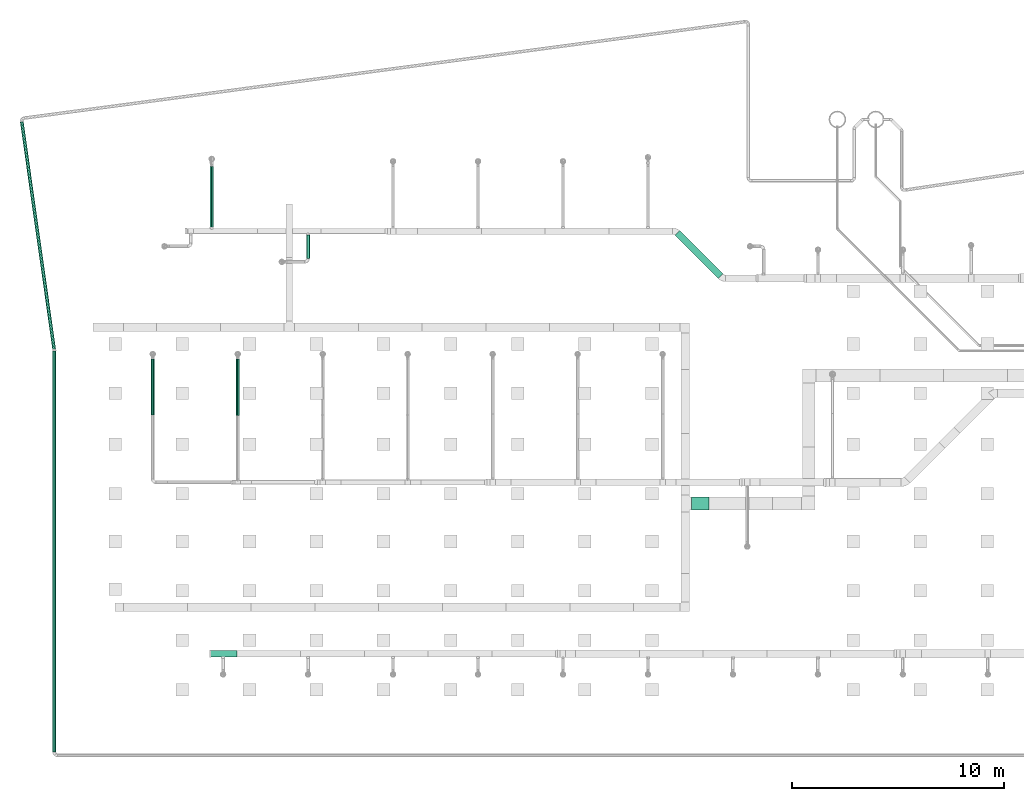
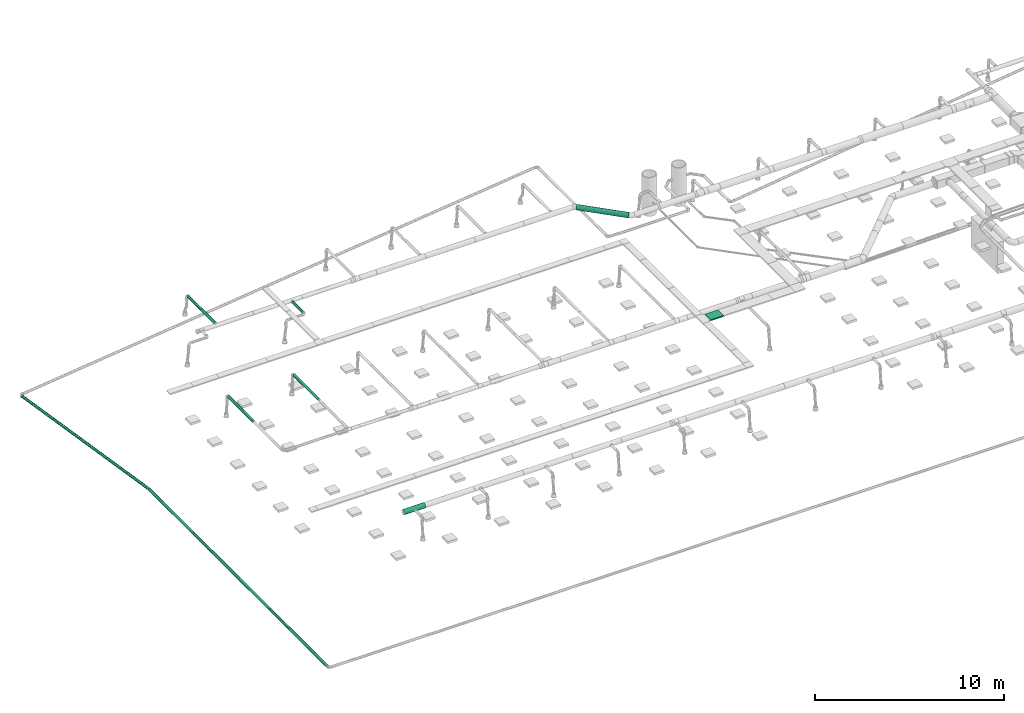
# One storey, part 200 of 374: 8 flow segments, 1 distribution element.
"""IFC2X3 building model written with IfcOpenShell, lengths in metres."""

from ifc_helpers import new_model, si_unit, direction, origin, place, context, subcontext, project, spatial, open_shell, surface_model, source, transform, mapped, element, save


model = new_model("IFC2X3")

# Units and contexts
model_context = context("Model", 3, precision=1e-05, world=origin(), true_north=direction((-0.4480736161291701, 0.8939966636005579)))
body_context = subcontext(model_context, "Body", "Model", "MODEL_VIEW")
ifc_project = project(units=[si_unit("LENGTHUNIT", "METRE"), si_unit("AREAUNIT", "SQUARE_METRE"), si_unit("VOLUMEUNIT", "CUBIC_METRE"), si_unit("PLANEANGLEUNIT", "RADIAN"), si_unit("THERMODYNAMICTEMPERATUREUNIT", "KELVIN"), si_unit("MASSUNIT", "GRAM", prefix="KILO"), si_unit("TIMEUNIT", "SECOND")], contexts=[model_context])

# Site, building, storey
site_placement = place(None, origin())
site = spatial("IfcSite", under=ifc_project, at=site_placement, Name="Site 1", CompositionType="ELEMENT")
building_placement = place(site_placement, origin())
building = spatial("IfcBuilding", under=site, at=building_placement, Name="Undefined", CompositionType="ELEMENT")
storey_placement = place(building_placement, origin())
storey = spatial("IfcBuildingStorey", under=building, at=storey_placement, Name="Rez de chauss\x8ee", CompositionType="ELEMENT", Elevation=0.0)

# Flow segments
shared_shape_1 = source(origin(), body_context, "Body", "SurfaceModel", [
    surface_model("IfcFaceBasedSurfaceModel", [(0.0, 0.020884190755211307, 0.0), (0.0, 0.0, 0.0), (18.87762597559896, 0.0, 0.0), (18.87762597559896, 0.02088419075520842, 0.0), (0.0, -0.020172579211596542, -0.005405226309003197), (18.87762597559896, -0.02017257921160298, -0.005405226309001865), (0.0, -0.03825881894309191, -0.015847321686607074), (18.87762597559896, -0.038258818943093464, -0.015847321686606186), (0.0, -0.05302617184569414, -0.0306146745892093), (18.87762597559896, -0.05302617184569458, -0.030614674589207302), (0.0, -0.06346826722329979, -0.04870091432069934), (18.87762597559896, -0.06346826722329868, -0.04870091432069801), (0.0, -0.06887349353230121, -0.06887349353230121), (18.87762597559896, -0.0688734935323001, -0.06887349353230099), (0.0, -0.06887349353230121, -0.08975768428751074), (18.87762597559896, -0.06887349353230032, -0.0897576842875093), (0.0, -0.06346826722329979, -0.10993026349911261), (18.87762597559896, -0.06346826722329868, -0.10993026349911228), (0.0, -0.05302617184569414, -0.12801650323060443), (18.87762597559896, -0.05302617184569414, -0.12801650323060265), (0.0, -0.038258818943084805, -0.14278385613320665), (18.87762597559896, -0.03825881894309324, -0.14278385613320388), (0.0, -0.020172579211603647, -0.15322595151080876), (18.87762597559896, -0.020172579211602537, -0.15322595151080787), (0.0, 7.105427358e-15, -0.15863117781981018), (18.87762597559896, 4.4408921e-16, -0.15863117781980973), (0.0, 0.020884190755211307, -0.15863117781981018), (18.87762597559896, 0.020884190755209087, -0.15863117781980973), (0.0, 0.04105676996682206, -0.15322595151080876), (18.87762597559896, 0.041056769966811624, -0.15322595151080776), (0.0, 0.05914300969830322, -0.1427838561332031), (18.87762597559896, 0.05914300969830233, -0.14278385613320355), (0.0, 0.07391036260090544, -0.12801650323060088), (18.87762597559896, 0.07391036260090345, -0.12801650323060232), (0.0, 0.0843524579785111, -0.10993026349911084), (18.87762597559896, 0.08435245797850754, -0.10993026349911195), (0.0, 0.08975768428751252, -0.08975768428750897), (18.87762597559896, 0.08975768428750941, -0.08975768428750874), (0.0, 0.08975768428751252, -0.06887349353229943), (18.87762597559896, 0.08975768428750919, -0.06887349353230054), (0.0, 0.0843524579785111, -0.048700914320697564), (18.87762597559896, 0.08435245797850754, -0.048700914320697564), (0.0, 0.07391036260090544, -0.030614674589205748), (18.87762597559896, 0.073910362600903, -0.03061467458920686), (0.0, 0.05914300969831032, -0.015847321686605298), (18.87762597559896, 0.059143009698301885, -0.015847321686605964), (0.0, 0.04105676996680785, -0.005405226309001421), (18.87762597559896, 0.041056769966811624, -0.005405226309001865)], [open_shell([[[0, 1, 2, 3]], [[1, 4, 5, 2]], [[4, 6, 7, 5]], [[6, 8, 9, 7]], [[8, 10, 11, 9]], [[10, 12, 13, 11]], [[12, 14, 15, 13]], [[14, 16, 17, 15]], [[16, 18, 19, 17]], [[18, 20, 21, 19]], [[20, 22, 23, 21]], [[22, 24, 25, 23]], [[24, 26, 27, 25]], [[26, 28, 29, 27]], [[28, 30, 31, 29]], [[30, 32, 33, 31]], [[32, 34, 35, 33]], [[34, 36, 37, 35]], [[36, 38, 39, 37]], [[38, 40, 41, 39]], [[40, 42, 43, 41]], [[42, 44, 45, 43]], [[44, 46, 47, 45]], [[46, 0, 3, 47]]])]),
])
flow_segment_1_placement = place(storey_placement, origin())
element("IfcFlowSegment", 1, at=flow_segment_1_placement, inside=storey, Name="PE-HD tuyau", ObjectType="PE-HD tuyau", context=body_context, shape_type="MappedRepresentation", body=[
    mapped(shared_shape_1, transform((-1.6736586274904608, -1.7664321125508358, -0.8708619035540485), x_axis=(0.0, 1.0, 0.0), y_axis=(0.9914448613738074, 0.0, -0.13052619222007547), z_axis=(-0.13052619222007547, 0.0, -0.9914448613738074))),
])
shared_shape_2 = source(origin(), body_context, "Body", "SurfaceModel", [
    surface_model("IfcFaceBasedSurfaceModel", [(2.758895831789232e-07, 0.020884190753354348, -1.11022302e-16), (0.0, 0.0, 0.0), (10.814239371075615, 2.22044605e-16, -2.22044605e-16), (10.814239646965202, 0.020884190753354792, -2.22044605e-16), (-2.5708817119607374e-07, -0.0201725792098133, -0.0054052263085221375), (10.814239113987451, -0.020172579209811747, -0.0054052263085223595), (-4.778547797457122e-07, -0.038258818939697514, -0.015847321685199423), (10.814238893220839, -0.03825881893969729, -0.015847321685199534), (-6.47254960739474e-07, -0.05302617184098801, -0.030614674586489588), (10.814238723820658, -0.0530261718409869, -0.0306146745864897), (-7.537443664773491e-07, -0.06346826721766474, -0.04870091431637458), (10.814238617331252, -0.06346826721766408, -0.04870091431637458), (-7.900659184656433e-07, -0.06887349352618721, -0.06887349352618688), (10.814238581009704, -0.0688734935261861, -0.0688734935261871), (-7.537443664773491e-07, -0.06887349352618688, -0.08975768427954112), (10.814238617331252, -0.06887349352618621, -0.08975768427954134), (-6.47254960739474e-07, -0.0634682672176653, -0.10993026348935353), (10.814238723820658, -0.06346826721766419, -0.10993026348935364), (-4.778547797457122e-07, -0.0530261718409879, -0.12801650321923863), (10.814238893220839, -0.05302617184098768, -0.12801650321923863), (-2.5708817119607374e-07, -0.0382588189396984, -0.14278385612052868), (10.814239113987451, -0.03825881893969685, -0.1427838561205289), (0.0, -0.020172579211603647, -0.15322595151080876), (10.814239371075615, -0.020172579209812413, -0.15322595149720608), (2.758895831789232e-07, -2.22044605e-16, -0.1586311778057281), (10.814239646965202, 2.22044605e-16, -0.15863117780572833), (5.517791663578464e-07, 0.020884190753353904, -0.1586311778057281), (10.814239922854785, 0.020884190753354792, -0.15863117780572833), (8.088673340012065e-07, 0.041056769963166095, -0.15322595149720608), (10.814240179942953, 0.041056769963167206, -0.1532259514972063), (1.0296339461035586e-06, 0.05914300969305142, -0.1427838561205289), (10.814240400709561, 0.059143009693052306, -0.14278385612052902), (1.1990341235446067e-06, 0.07391036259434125, -0.12801650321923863), (10.814240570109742, 0.07391036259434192, -0.12801650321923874), (1.3055235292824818e-06, 0.08435245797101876, -0.10993026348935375), (10.814240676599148, 0.08435245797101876, -0.10993026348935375), (1.341845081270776e-06, 0.08975768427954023, -0.08975768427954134), (10.8142407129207, 0.08975768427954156, -0.08975768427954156), (1.3055235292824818e-06, 0.0897576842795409, -0.06887349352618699), (10.814240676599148, 0.0897576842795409, -0.06887349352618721), (1.1990341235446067e-06, 0.08435245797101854, -0.04870091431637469), (10.814240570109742, 0.0843524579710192, -0.0487009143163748), (1.0296339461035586e-06, 0.0739103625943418, -0.0306146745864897), (10.814240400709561, 0.0739103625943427, -0.03061467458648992), (8.088673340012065e-07, 0.059143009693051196, -0.015847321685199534), (10.814240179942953, 0.059143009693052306, -0.015847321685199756), (5.517791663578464e-07, 0.04105676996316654, -0.0054052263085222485), (10.814239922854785, 0.04105676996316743, -0.0054052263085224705)], [open_shell([[[0, 1, 2, 3]], [[1, 4, 5, 2]], [[4, 6, 7, 5]], [[6, 8, 9, 7]], [[8, 10, 11, 9]], [[10, 12, 13, 11]], [[12, 14, 15, 13]], [[14, 16, 17, 15]], [[16, 18, 19, 17]], [[18, 20, 21, 19]], [[20, 22, 23, 21]], [[22, 24, 25, 23]], [[24, 26, 27, 25]], [[26, 28, 29, 27]], [[28, 30, 31, 29]], [[30, 32, 33, 31]], [[32, 34, 35, 33]], [[34, 36, 37, 35]], [[36, 38, 39, 37]], [[38, 40, 41, 39]], [[40, 42, 43, 41]], [[42, 44, 45, 43]], [[44, 46, 47, 45]], [[46, 0, 3, 47]]])]),
])
flow_segment_2_placement = place(storey_placement, origin())
element("IfcFlowSegment", 2, at=flow_segment_2_placement, inside=storey, Name="PE-HD tuyau", ObjectType="PE-HD tuyau", context=body_context, shape_type="MappedRepresentation", body=[
    mapped(shared_shape_2, transform((-1.6828643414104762, 17.181232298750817, -0.8708619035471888), x_axis=(-0.14087204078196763, 0.9900278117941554, 0.0), y_axis=(0.9815579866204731, 0.13966686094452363, -0.1305261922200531), z_axis=(-0.1292245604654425, -0.01838749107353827, -0.9914448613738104))),
])
shared_shape_3 = source(origin(), body_context, "Body", "SurfaceModel", [
    surface_model("IfcFaceBasedSurfaceModel", [(0.0, 0.020884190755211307, 0.0), (0.0, 0.0, 0.0), (2.6461030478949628, 0.0, 0.0), (2.6461030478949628, 0.020884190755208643, -8.8817842e-16), (0.0, -0.020172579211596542, -0.005405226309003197), (2.6461030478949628, -0.02017257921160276, -0.005405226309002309), (0.0, -0.03825881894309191, -0.015847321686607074), (2.6461030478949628, -0.038258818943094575, -0.015847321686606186), (0.0, -0.05302617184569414, -0.0306146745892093), (2.6461030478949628, -0.053026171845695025, -0.030614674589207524), (0.0, -0.06346826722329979, -0.04870091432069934), (2.6461030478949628, -0.0634682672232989, -0.04870091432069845), (0.0, -0.06887349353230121, -0.06887349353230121), (2.6461030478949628, -0.06887349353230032, -0.06887349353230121), (0.0, -0.06887349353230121, -0.08975768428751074), (2.6461030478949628, -0.06887349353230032, -0.08975768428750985), (0.0, -0.06346826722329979, -0.10993026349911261), (2.6461030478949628, -0.0634682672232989, -0.10993026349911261), (0.0, -0.05302617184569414, -0.12801650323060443), (2.6461030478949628, -0.05302617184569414, -0.12801650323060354), (0.0, -0.038258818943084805, -0.14278385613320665), (2.6461030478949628, -0.03825881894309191, -0.142783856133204), (0.0, -0.020172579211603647, -0.15322595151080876), (2.6461030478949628, -0.02017257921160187, -0.15322595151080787), (0.0, 7.105427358e-15, -0.15863117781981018), (2.6461030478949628, 1.776356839e-15, -0.1586311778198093), (0.0, 0.020884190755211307, -0.15863117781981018), (2.6461030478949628, 0.02088419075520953, -0.1586311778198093), (0.0, 0.04105676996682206, -0.15322595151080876), (2.6461030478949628, 0.04105676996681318, -0.15322595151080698), (0.0, 0.05914300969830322, -0.1427838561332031), (2.6461030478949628, 0.05914300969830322, -0.1427838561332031), (0.0, 0.07391036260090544, -0.12801650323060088), (2.6461030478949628, 0.07391036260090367, -0.12801650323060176), (0.0, 0.0843524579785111, -0.10993026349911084), (2.6461030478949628, 0.08435245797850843, -0.10993026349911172), (0.0, 0.08975768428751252, -0.08975768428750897), (2.6461030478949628, 0.08975768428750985, -0.08975768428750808), (0.0, 0.08975768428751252, -0.06887349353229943), (2.6461030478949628, 0.08975768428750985, -0.06887349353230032), (0.0, 0.0843524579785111, -0.048700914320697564), (2.6461030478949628, 0.08435245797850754, -0.048700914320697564), (0.0, 0.07391036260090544, -0.030614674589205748), (2.6461030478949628, 0.07391036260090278, -0.030614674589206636), (0.0, 0.05914300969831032, -0.015847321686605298), (2.6461030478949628, 0.05914300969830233, -0.015847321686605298), (0.0, 0.04105676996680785, -0.005405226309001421), (2.6461030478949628, 0.0410567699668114, -0.005405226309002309)], [open_shell([[[0, 1, 2, 3]], [[1, 4, 5, 2]], [[4, 6, 7, 5]], [[6, 8, 9, 7]], [[8, 10, 11, 9]], [[10, 12, 13, 11]], [[12, 14, 15, 13]], [[14, 16, 17, 15]], [[16, 18, 19, 17]], [[18, 20, 21, 19]], [[20, 22, 23, 21]], [[22, 24, 25, 23]], [[24, 26, 27, 25]], [[26, 28, 29, 27]], [[28, 30, 31, 29]], [[30, 32, 33, 31]], [[32, 34, 35, 33]], [[34, 36, 37, 35]], [[36, 38, 39, 37]], [[38, 40, 41, 39]], [[40, 42, 43, 41]], [[42, 44, 45, 43]], [[44, 46, 47, 45]], [[46, 0, 3, 47]]])]),
])
flow_segment_3_placement = place(storey_placement, origin())
element("IfcFlowSegment", 3, at=flow_segment_3_placement, inside=storey, Name="Tube", ObjectType="Tube", context=body_context, shape_type="MappedRepresentation", body=[
    mapped(shared_shape_3, transform((7.000758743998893, 14.069193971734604, 3.877274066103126), x_axis=(0.0, 1.0, 0.0), y_axis=(-0.9914448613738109, 0.0, 0.1305261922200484), z_axis=(0.1305261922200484, 0.0, 0.9914448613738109))),
])
shared_shape_4 = source(origin(), body_context, "Body", "SurfaceModel", [
    surface_model("IfcFaceBasedSurfaceModel", [(0.0, 0.020884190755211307, 0.0), (0.0, 0.0, 0.0), (2.636103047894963, 0.0, 0.0), (2.636103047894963, 0.020884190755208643, 0.0), (0.0, -0.020172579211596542, -0.005405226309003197), (2.636103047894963, -0.02017257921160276, -0.005405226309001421), (0.0, -0.03825881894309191, -0.015847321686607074), (2.636103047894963, -0.038258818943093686, -0.015847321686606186), (0.0, -0.05302617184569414, -0.0306146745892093), (2.636103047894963, -0.05302617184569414, -0.030614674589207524), (0.0, -0.06346826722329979, -0.04870091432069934), (2.636103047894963, -0.06346826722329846, -0.04870091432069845), (0.0, -0.06887349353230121, -0.06887349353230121), (2.636103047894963, -0.06887349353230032, -0.06887349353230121), (0.0, -0.06887349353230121, -0.08975768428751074), (2.636103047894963, -0.06887349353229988, -0.08975768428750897), (0.0, -0.06346826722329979, -0.10993026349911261), (2.636103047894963, -0.06346826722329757, -0.10993026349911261), (0.0, -0.05302617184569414, -0.12801650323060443), (2.636103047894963, -0.05302617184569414, -0.12801650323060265), (0.0, -0.038258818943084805, -0.14278385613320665), (2.636103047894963, -0.038258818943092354, -0.1427838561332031), (0.0, -0.020172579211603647, -0.15322595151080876), (2.636103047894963, -0.02017257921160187, -0.15322595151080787), (0.0, 7.105427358e-15, -0.15863117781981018), (2.636103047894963, 1.33226763e-15, -0.1586311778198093), (0.0, 0.020884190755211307, -0.15863117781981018), (2.636103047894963, 0.02088419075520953, -0.1586311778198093), (0.0, 0.04105676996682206, -0.15322595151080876), (2.636103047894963, 0.041056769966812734, -0.15322595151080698), (0.0, 0.05914300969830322, -0.1427838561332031), (2.636103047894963, 0.05914300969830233, -0.1427838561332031), (0.0, 0.07391036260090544, -0.12801650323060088), (2.636103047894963, 0.07391036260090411, -0.12801650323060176), (0.0, 0.0843524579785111, -0.10993026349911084), (2.636103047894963, 0.08435245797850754, -0.10993026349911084), (0.0, 0.08975768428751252, -0.08975768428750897), (2.636103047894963, 0.08975768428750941, -0.08975768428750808), (0.0, 0.08975768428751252, -0.06887349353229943), (2.636103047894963, 0.08975768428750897, -0.06887349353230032), (0.0, 0.0843524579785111, -0.048700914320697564), (2.636103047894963, 0.08435245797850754, -0.048700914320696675), (0.0, 0.07391036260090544, -0.030614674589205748), (2.636103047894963, 0.07391036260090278, -0.030614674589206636), (0.0, 0.05914300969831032, -0.015847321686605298), (2.636103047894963, 0.05914300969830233, -0.015847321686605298), (0.0, 0.04105676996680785, -0.005405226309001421), (2.636103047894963, 0.04105676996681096, -0.005405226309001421)], [open_shell([[[0, 1, 2, 3]], [[1, 4, 5, 2]], [[4, 6, 7, 5]], [[6, 8, 9, 7]], [[8, 10, 11, 9]], [[10, 12, 13, 11]], [[12, 14, 15, 13]], [[14, 16, 17, 15]], [[16, 18, 19, 17]], [[18, 20, 21, 19]], [[20, 22, 23, 21]], [[22, 24, 25, 23]], [[24, 26, 27, 25]], [[26, 28, 29, 27]], [[28, 30, 31, 29]], [[30, 32, 33, 31]], [[32, 34, 35, 33]], [[34, 36, 37, 35]], [[36, 38, 39, 37]], [[38, 40, 41, 39]], [[40, 42, 43, 41]], [[42, 44, 45, 43]], [[44, 46, 47, 45]], [[46, 0, 3, 47]]])]),
])
flow_segment_4_placement = place(storey_placement, origin())
element("IfcFlowSegment", 4, at=flow_segment_4_placement, inside=storey, Name="Tube", ObjectType="Tube", context=body_context, shape_type="MappedRepresentation", body=[
    mapped(shared_shape_4, transform((3.000758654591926, 14.079193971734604, 3.877274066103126), x_axis=(0.0, 1.0, 0.0), y_axis=(-0.9914448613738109, 0.0, 0.1305261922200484), z_axis=(0.1305261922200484, 0.0, 0.9914448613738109))),
])
shared_shape_5 = source(origin(), body_context, "Body", "SurfaceModel", [
    surface_model("IfcFaceBasedSurfaceModel", [(0.0, 0.04111575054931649, 0.0), (0.0, 0.0, 0.0), (1.2842849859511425, 0.0, 0.0), (1.2842849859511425, 0.041115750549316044, -8.8817842e-16), (0.0, -0.03971476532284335, -0.010641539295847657), (1.2842849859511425, -0.03971476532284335, -0.010641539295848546), (0.0, -0.0753220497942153, -0.0311994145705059), (1.2842849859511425, -0.07532204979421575, -0.0311994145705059), (0.0, -0.10439527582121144, -0.060272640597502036), (1.2842849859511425, -0.10439527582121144, -0.06027264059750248), (0.0, -0.12495315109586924, -0.09587992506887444), (1.2842849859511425, -0.12495315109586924, -0.09587992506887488), (0.0, -0.13559469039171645, -0.13559469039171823), (1.2842849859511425, -0.13559469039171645, -0.13559469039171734), (0.0, -0.135594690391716, -0.17671044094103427), (1.2842849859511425, -0.13559469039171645, -0.17671044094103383), (0.0, -0.1249531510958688, -0.21642520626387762), (1.2842849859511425, -0.1249531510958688, -0.21642520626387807), (0.0, -0.10439527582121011, -0.2520324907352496), (1.2842849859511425, -0.10439527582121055, -0.2520324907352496), (0.0, -0.07532204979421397, -0.2811057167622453), (1.2842849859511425, -0.07532204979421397, -0.28110571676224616), (0.0, -0.039714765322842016, -0.3016635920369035), (1.2842849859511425, -0.03971476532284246, -0.3016635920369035), (0.0, 1.776356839e-15, -0.3123051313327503), (1.2842849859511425, 1.33226763e-15, -0.31230513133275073), (0.0, 0.041115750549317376, -0.31230513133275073), (1.2842849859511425, 0.04111575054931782, -0.31230513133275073), (0.0, 0.08083051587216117, -0.30166359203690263), (1.2842849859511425, 0.08083051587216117, -0.30166359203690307), (0.0, 0.11643780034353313, -0.28110571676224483), (1.2842849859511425, 0.11643780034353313, -0.2811057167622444), (0.0, 0.14551102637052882, -0.25203249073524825), (1.2842849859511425, 0.14551102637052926, -0.2520324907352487), (0.0, 0.16606890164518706, -0.2164252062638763), (1.2842849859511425, 0.16606890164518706, -0.2164252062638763), (0.0, 0.17671044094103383, -0.1767104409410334), (1.2842849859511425, 0.17671044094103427, -0.17671044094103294), (0.0, 0.17671044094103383, -0.1355946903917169), (1.2842849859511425, 0.17671044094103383, -0.13559469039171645), (0.0, 0.16606890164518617, -0.09587992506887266), (1.2842849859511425, 0.16606890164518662, -0.0958799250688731), (0.0, 0.14551102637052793, -0.06027264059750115), (1.2842849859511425, 0.14551102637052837, -0.06027264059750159), (0.0, 0.1164378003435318, -0.031199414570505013), (1.2842849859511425, 0.1164378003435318, -0.0311994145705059), (0.0, 0.08083051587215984, -0.010641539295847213), (1.2842849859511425, 0.08083051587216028, -0.010641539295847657)], [open_shell([[[0, 1, 2, 3]], [[1, 4, 5, 2]], [[4, 6, 7, 5]], [[6, 8, 9, 7]], [[8, 10, 11, 9]], [[10, 12, 13, 11]], [[12, 14, 15, 13]], [[14, 16, 17, 15]], [[16, 18, 19, 17]], [[18, 20, 21, 19]], [[20, 22, 23, 21]], [[22, 24, 25, 23]], [[24, 26, 27, 25]], [[26, 28, 29, 27]], [[28, 30, 31, 29]], [[30, 32, 33, 31]], [[32, 34, 35, 33]], [[34, 36, 37, 35]], [[36, 38, 39, 37]], [[38, 40, 41, 39]], [[40, 42, 43, 41]], [[42, 44, 45, 43]], [[44, 46, 47, 45]], [[46, 0, 3, 47]]])]),
])
flow_segment_5_placement = place(storey_placement, origin())
element("IfcFlowSegment", 5, at=flow_segment_5_placement, inside=storey, Name="Tube", ObjectType="Tube", context=body_context, shape_type="MappedRepresentation", body=[
    mapped(shared_shape_5, transform((6.9400009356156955, 2.892061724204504, 3.952133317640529), x_axis=(-1.0, 0.0, 0.0), y_axis=(7.266545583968e-12, -0.9914448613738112, 0.13052619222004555), z_axis=(0.0, 0.13052619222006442, 0.9914448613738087))),
])
shared_shape_6 = source(origin(), body_context, "Body", "SurfaceModel", [
    surface_model("IfcFaceBasedSurfaceModel", [(2.8758298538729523, 0.0, 0.0), (2.8758298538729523, 0.04111575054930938, 1.776356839e-15), (0.0, 0.04111575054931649, 0.0), (0.0, 0.0, 0.0), (2.8758298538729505, 0.08083051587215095, -0.01064153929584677), (0.0, 0.08083051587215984, -0.010641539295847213), (2.8758298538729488, 0.11643780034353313, -0.031199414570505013), (0.0, 0.1164378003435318, -0.031199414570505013), (2.8758298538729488, 0.14551102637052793, -0.060272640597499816), (0.0, 0.14551102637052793, -0.06027264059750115), (2.8758298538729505, 0.16606890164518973, -0.0958799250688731), (0.0, 0.16606890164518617, -0.09587992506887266), (2.8758298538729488, 0.1767104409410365, -0.13559469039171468), (0.0, 0.17671044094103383, -0.1355946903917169), (2.8758298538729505, 0.1767104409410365, -0.17671044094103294), (0.0, 0.17671044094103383, -0.1767104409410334), (2.8758298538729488, 0.16606890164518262, -0.2164252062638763), (0.0, 0.16606890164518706, -0.2164252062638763), (2.8758298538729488, 0.14551102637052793, -0.2520324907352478), (0.0, 0.14551102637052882, -0.25203249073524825), (2.8758298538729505, 0.11643780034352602, -0.2811057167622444), (0.0, 0.11643780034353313, -0.28110571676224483), (2.8758298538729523, 0.08083051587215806, -0.30166359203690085), (0.0, 0.08083051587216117, -0.30166359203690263), (2.8758298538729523, 0.04111575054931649, -0.3123051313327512), (0.0, 0.041115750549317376, -0.31230513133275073), (2.8758298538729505, 0.0, -0.3123051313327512), (0.0, 1.776356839e-15, -0.3123051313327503), (2.8758298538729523, -0.03971476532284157, -0.30166359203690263), (0.0, -0.039714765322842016, -0.3016635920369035), (2.875829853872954, -0.07532204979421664, -0.2811057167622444), (0.0, -0.07532204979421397, -0.2811057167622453), (2.875829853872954, -0.10439527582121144, -0.2520324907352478), (0.0, -0.10439527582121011, -0.2520324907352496), (2.8758298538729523, -0.12495315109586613, -0.2164252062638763), (0.0, -0.1249531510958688, -0.21642520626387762), (2.875829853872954, -0.13559469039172, -0.17671044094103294), (0.0, -0.135594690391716, -0.17671044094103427), (2.8758298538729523, -0.1355946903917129, -0.13559469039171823), (0.0, -0.13559469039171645, -0.13559469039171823), (2.875829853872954, -0.12495315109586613, -0.0958799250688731), (0.0, -0.12495315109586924, -0.09587992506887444), (2.875829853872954, -0.10439527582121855, -0.06027264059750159), (0.0, -0.10439527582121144, -0.060272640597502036), (2.8758298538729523, -0.07532204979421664, -0.03119941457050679), (0.0, -0.0753220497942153, -0.0311994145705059), (2.8758298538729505, -0.03971476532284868, -0.01064153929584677), (0.0, -0.03971476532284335, -0.010641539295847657)], [open_shell([[[0, 1, 2, 3]], [[1, 4, 5, 2]], [[4, 6, 7, 5]], [[6, 8, 9, 7]], [[8, 10, 11, 9]], [[10, 12, 13, 11]], [[12, 14, 15, 13]], [[14, 16, 17, 15]], [[16, 18, 19, 17]], [[18, 20, 21, 19]], [[20, 22, 23, 21]], [[22, 24, 25, 23]], [[24, 26, 27, 25]], [[26, 28, 29, 27]], [[28, 30, 31, 29]], [[30, 32, 33, 31]], [[32, 34, 35, 33]], [[34, 36, 37, 35]], [[36, 38, 39, 37]], [[38, 40, 41, 39]], [[40, 42, 43, 41]], [[42, 44, 45, 43]], [[44, 46, 47, 45]], [[46, 0, 3, 47]]])]),
])
flow_segment_6_placement = place(storey_placement, origin())
element("IfcFlowSegment", 6, at=flow_segment_6_placement, inside=storey, Name="Tube", ObjectType="Tube", context=body_context, shape_type="MappedRepresentation", body=[
    mapped(shared_shape_6, transform((27.67588236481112, 22.652668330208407, 3.9575000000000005), x_axis=(0.7071067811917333, -0.7071067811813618, 0.0), y_axis=(0.7010573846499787, 0.7010573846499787, -0.13052619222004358), z_axis=(0.0922959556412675, 0.0922959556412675, 0.9914448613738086))),
])
shared_shape_7 = source(origin(), body_context, "Body", "SurfaceModel", [
    surface_model("IfcFaceBasedSurfaceModel", [(0.0, 0.020884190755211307, 0.0), (0.0, 0.0, 0.0), (2.870069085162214, 0.0, 0.0), (2.870069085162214, 0.020884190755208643, -8.8817842e-16), (0.0, -0.020172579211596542, -0.005405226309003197), (2.870069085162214, -0.02017257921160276, -0.005405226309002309), (0.0, -0.03825881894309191, -0.015847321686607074), (2.870069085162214, -0.038258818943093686, -0.015847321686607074), (0.0, -0.05302617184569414, -0.0306146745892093), (2.870069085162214, -0.05302617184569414, -0.030614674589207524), (0.0, -0.06346826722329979, -0.04870091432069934), (2.870069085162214, -0.0634682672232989, -0.04870091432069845), (0.0, -0.06887349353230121, -0.06887349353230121), (2.870069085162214, -0.06887349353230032, -0.06887349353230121), (0.0, -0.06887349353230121, -0.08975768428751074), (2.870069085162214, -0.06887349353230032, -0.08975768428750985), (0.0, -0.06346826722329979, -0.10993026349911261), (2.870069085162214, -0.06346826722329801, -0.10993026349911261), (0.0, -0.05302617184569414, -0.12801650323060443), (2.870069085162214, -0.05302617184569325, -0.12801650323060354), (0.0, -0.038258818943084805, -0.14278385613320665), (2.870069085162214, -0.03825881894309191, -0.142783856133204), (0.0, -0.020172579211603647, -0.15322595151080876), (2.870069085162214, -0.02017257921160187, -0.15322595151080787), (0.0, 7.105427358e-15, -0.15863117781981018), (2.870069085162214, 1.776356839e-15, -0.15863117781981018), (0.0, 0.020884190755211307, -0.15863117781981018), (2.870069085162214, 0.02088419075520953, -0.1586311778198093), (0.0, 0.04105676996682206, -0.15322595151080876), (2.870069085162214, 0.04105676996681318, -0.15322595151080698), (0.0, 0.05914300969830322, -0.1427838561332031), (2.870069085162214, 0.05914300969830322, -0.1427838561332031), (0.0, 0.07391036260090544, -0.12801650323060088), (2.870069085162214, 0.07391036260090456, -0.12801650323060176), (0.0, 0.0843524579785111, -0.10993026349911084), (2.870069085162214, 0.08435245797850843, -0.10993026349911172), (0.0, 0.08975768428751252, -0.08975768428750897), (2.870069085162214, 0.08975768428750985, -0.08975768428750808), (0.0, 0.08975768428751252, -0.06887349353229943), (2.870069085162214, 0.08975768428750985, -0.06887349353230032), (0.0, 0.0843524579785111, -0.048700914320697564), (2.870069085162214, 0.08435245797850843, -0.048700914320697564), (0.0, 0.07391036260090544, -0.030614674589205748), (2.870069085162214, 0.07391036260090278, -0.030614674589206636), (0.0, 0.05914300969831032, -0.015847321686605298), (2.870069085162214, 0.05914300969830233, -0.015847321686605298), (0.0, 0.04105676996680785, -0.005405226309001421), (2.870069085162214, 0.0410567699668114, -0.005405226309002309)], [open_shell([[[0, 1, 2, 3]], [[1, 4, 5, 2]], [[4, 6, 7, 5]], [[6, 8, 9, 7]], [[8, 10, 11, 9]], [[10, 12, 13, 11]], [[12, 14, 15, 13]], [[14, 16, 17, 15]], [[16, 18, 19, 17]], [[18, 20, 21, 19]], [[20, 22, 23, 21]], [[22, 24, 25, 23]], [[24, 26, 27, 25]], [[26, 28, 29, 27]], [[28, 30, 31, 29]], [[30, 32, 33, 31]], [[32, 34, 35, 33]], [[34, 36, 37, 35]], [[36, 38, 39, 37]], [[38, 40, 41, 39]], [[40, 42, 43, 41]], [[42, 44, 45, 43]], [[44, 46, 47, 45]], [[46, 0, 3, 47]]])]),
])
flow_segment_7_placement = place(storey_placement, origin())
element("IfcFlowSegment", 7, at=flow_segment_7_placement, inside=storey, Name="Tube", ObjectType="Tube", context=body_context, shape_type="MappedRepresentation", body=[
    mapped(shared_shape_7, transform((5.774249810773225, 22.919929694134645, 3.877274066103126), x_axis=(0.0, 1.0, 0.0), y_axis=(-0.9914448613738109, 0.0, 0.1305261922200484), z_axis=(0.1305261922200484, 0.0, 0.9914448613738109))),
])
shared_shape_8 = source(origin(), body_context, "Body", "SurfaceModel", [
    surface_model("IfcFaceBasedSurfaceModel", [(0.0, 0.020884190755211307, 0.0), (0.0, 0.0, 0.0), (1.1083076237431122, -4.4408921e-16, 1.776356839e-15), (1.1083076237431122, 0.020884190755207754, 1.776356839e-15), (0.0, -0.020172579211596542, -0.005405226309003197), (1.1083076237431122, -0.020172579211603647, -0.005405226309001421), (0.0, -0.03825881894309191, -0.015847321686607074), (1.1083076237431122, -0.038258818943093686, -0.015847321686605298), (0.0, -0.05302617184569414, -0.0306146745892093), (1.1083076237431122, -0.053026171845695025, -0.030614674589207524), (0.0, -0.06346826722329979, -0.04870091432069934), (1.1083076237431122, -0.0634682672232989, -0.048700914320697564), (0.0, -0.06887349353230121, -0.06887349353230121), (1.1083076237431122, -0.06887349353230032, -0.06887349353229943), (0.0, -0.06887349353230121, -0.08975768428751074), (1.1083076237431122, -0.06887349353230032, -0.08975768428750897), (0.0, -0.06346826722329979, -0.10993026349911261), (1.1083076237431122, -0.0634682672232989, -0.10993026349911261), (0.0, -0.05302617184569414, -0.12801650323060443), (1.1083076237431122, -0.05302617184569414, -0.12801650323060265), (0.0, -0.038258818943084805, -0.14278385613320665), (1.1083076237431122, -0.038258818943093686, -0.1427838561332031), (0.0, -0.020172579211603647, -0.15322595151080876), (1.1083076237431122, -0.02017257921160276, -0.15322595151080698), (0.0, 7.105427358e-15, -0.15863117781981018), (1.1083076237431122, 0.0, -0.1586311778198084), (0.0, 0.020884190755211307, -0.15863117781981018), (1.1083076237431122, 0.020884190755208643, -0.1586311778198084), (0.0, 0.04105676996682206, -0.15322595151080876), (1.1083076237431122, 0.0410567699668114, -0.15322595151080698), (0.0, 0.05914300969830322, -0.1427838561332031), (1.1083076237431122, 0.05914300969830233, -0.1427838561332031), (0.0, 0.07391036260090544, -0.12801650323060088), (1.1083076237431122, 0.07391036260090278, -0.12801650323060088), (0.0, 0.0843524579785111, -0.10993026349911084), (1.1083076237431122, 0.08435245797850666, -0.10993026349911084), (0.0, 0.08975768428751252, -0.08975768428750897), (1.1083076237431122, 0.08975768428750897, -0.08975768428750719), (0.0, 0.08975768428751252, -0.06887349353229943), (1.1083076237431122, 0.08975768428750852, -0.06887349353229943), (0.0, 0.0843524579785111, -0.048700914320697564), (1.1083076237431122, 0.08435245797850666, -0.048700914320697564), (0.0, 0.07391036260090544, -0.030614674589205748), (1.1083076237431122, 0.07391036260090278, -0.030614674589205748), (0.0, 0.05914300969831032, -0.015847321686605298), (1.1083076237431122, 0.05914300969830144, -0.015847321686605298), (0.0, 0.04105676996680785, -0.005405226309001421), (1.1083076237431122, 0.041056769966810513, -0.005405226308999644)], [open_shell([[[0, 1, 2, 3]], [[1, 4, 5, 2]], [[4, 6, 7, 5]], [[6, 8, 9, 7]], [[8, 10, 11, 9]], [[10, 12, 13, 11]], [[12, 14, 15, 13]], [[14, 16, 17, 15]], [[16, 18, 19, 17]], [[18, 20, 21, 19]], [[20, 22, 23, 21]], [[22, 24, 25, 23]], [[24, 26, 27, 25]], [[26, 28, 29, 27]], [[28, 30, 31, 29]], [[30, 32, 33, 31]], [[32, 34, 35, 33]], [[34, 36, 37, 35]], [[36, 38, 39, 37]], [[38, 40, 41, 39]], [[40, 42, 43, 41]], [[42, 44, 45, 43]], [[44, 46, 47, 45]], [[46, 0, 3, 47]]])]),
])
flow_segment_8_placement = place(storey_placement, origin())
element("IfcFlowSegment", 8, at=flow_segment_8_placement, inside=storey, Name="Tube", ObjectType="Tube", context=body_context, shape_type="MappedRepresentation", body=[
    mapped(shared_shape_8, transform((10.367275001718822, 22.569929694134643, 3.820705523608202), x_axis=(0.0, -1.0, 0.0), y_axis=(0.130526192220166, 0.0, -0.9914448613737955), z_axis=(0.9914448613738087, 0.0, 0.13052619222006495))),
])

# Distribution element
shared_shape_9 = source(origin(), body_context, "Body", "SurfaceModel", [
    surface_model("IfcFaceBasedSurfaceModel", [(0.0, 0.0, 0.0), (0.8169721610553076, 0.0, 0.0), (0.8169721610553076, 0.08000000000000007, 0.0), (0.0, 0.08000000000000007, 0.0), (0.8169721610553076, 0.0, -0.5999999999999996), (0.0, 0.0, -0.6000000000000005), (0.0, 0.08000000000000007, -0.6000000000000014), (0.8169721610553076, 0.08000000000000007, -0.5999999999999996)], [open_shell([[[0, 1, 2, 3]], [[4, 5, 6, 7]], [[6, 3, 2]], [[6, 2, 7]], [[1, 0, 5]], [[4, 1, 5]]])]),
])
distribution_element_placement = place(storey_placement, origin())
element("IfcDistributionElement", 9, at=distribution_element_placement, inside=storey, Name="Chemin(s) de câbles", ObjectType="Chemin(s) de câbles", context=body_context, shape_type="MappedRepresentation", body=[
    mapped(shared_shape_9, transform((29.160999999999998, 9.626369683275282, 4.18), x_axis=(-1.0, 0.0, 0.0), y_axis=(0.0, 0.0, -1.0), z_axis=(0.0, -1.0, 0.0))),
])

save(model, "model.ifc")
